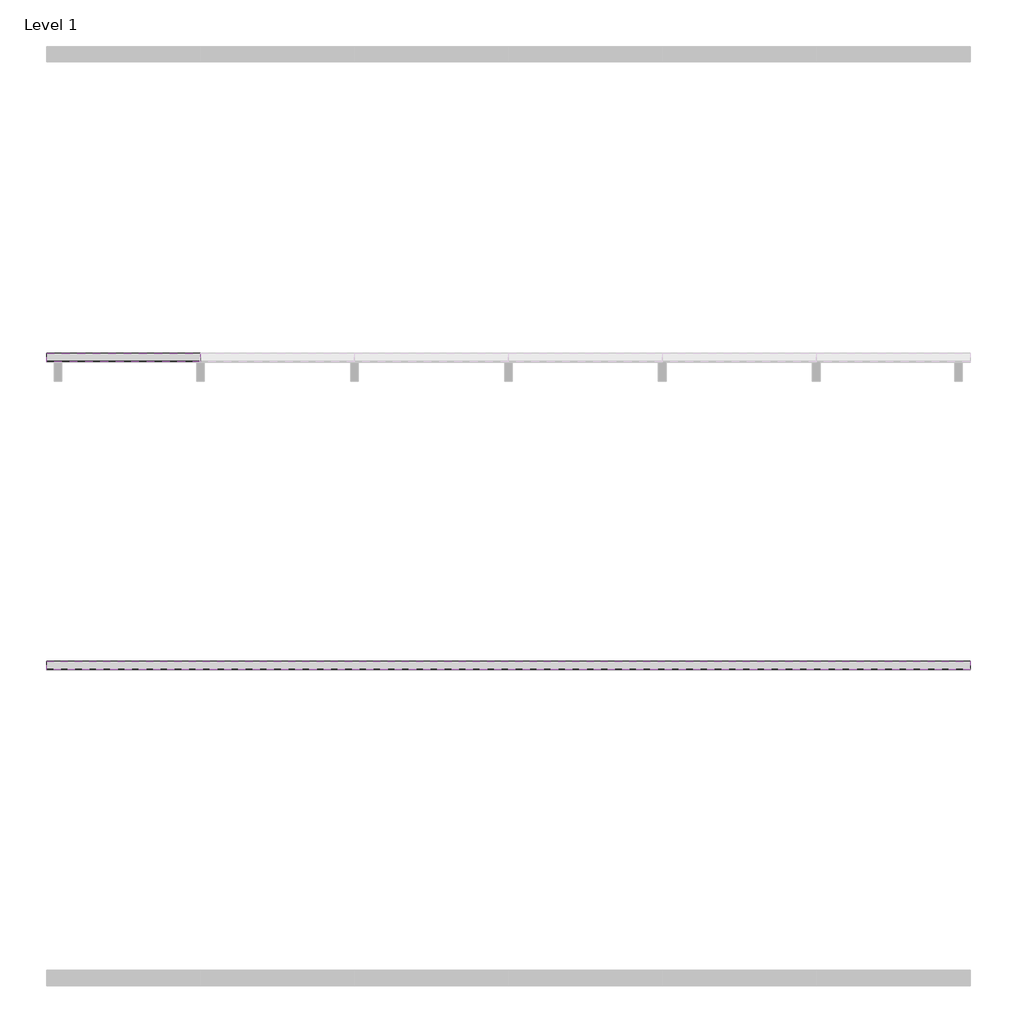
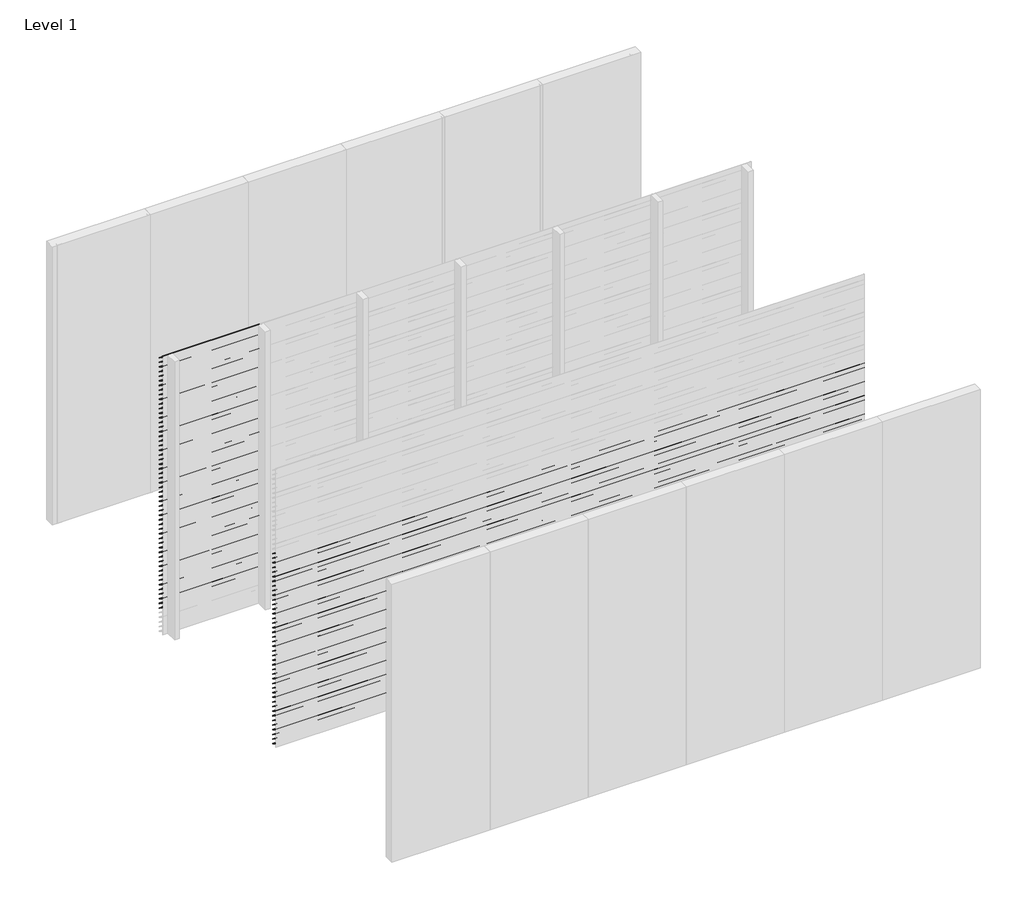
# One storey, part 2 of 18: 97 proxies.
"""IFC4 building model written with IfcOpenShell, lengths in millimetres."""

from ifc_helpers import new_model, si_unit, frame, origin, place, context, project, spatial, polyline, outline, extrude, element, save

model = new_model("IFC4")

# Units and contexts
model_context = context("Model", 3, world=origin())
ifc_project = project(units=[si_unit("LENGTHUNIT", "METRE", prefix="MILLI")], contexts=[model_context])

# Site, building, storey
site = spatial("IfcSite", under=ifc_project)
building = spatial("IfcBuilding", under=site)
storey = spatial("IfcBuildingStorey", under=building, Name="Level 1", Elevation=0.0)

# Proxies
placement = place(None, origin())
element("IfcBuildingElementProxy", 1, Name="Wall Sweeps", at=placement, inside=storey, context=model_context, shape_type="SweptSolid", body=[
    extrude(outline(polyline([(-17995.0, 3000.0), (-17995.0, 2991.0744429), (-17943.0, 2956.0), (-17943.0, 2950.0), (-17997.0, 2986.4234599), (-17997.0, 3000.0), (-17995.0, 3000.0)])), frame((0.0, 0.0, 0.0), z_axis=(1.0, 0.0, 0.0), x_axis=(0.0, 1.0, 0.0)), (0.0, 0.0, 1.0), 1000.0000002),
])
element("IfcBuildingElementProxy", 2, Name="Wall Sweeps", at=placement, inside=storey, context=model_context, shape_type="SweptSolid", body=[
    extrude(outline(polyline([(-17995.0, 2950.0), (-17995.0, 2941.0744429), (-17943.0, 2906.0), (-17943.0, 2900.0), (-17997.0, 2936.4234599), (-17997.0, 2950.0), (-17995.0, 2950.0)])), frame((0.0, 0.0, 0.0), z_axis=(1.0, 0.0, 0.0), x_axis=(0.0, 1.0, 0.0)), (0.0, 0.0, 1.0), 1000.0000002),
])
element("IfcBuildingElementProxy", 3, Name="Wall Sweeps", at=placement, inside=storey, context=model_context, shape_type="SweptSolid", body=[
    extrude(outline(polyline([(-17995.0, 2900.0), (-17995.0, 2891.0744429), (-17943.0, 2856.0), (-17943.0, 2850.0), (-17997.0, 2886.4234599), (-17997.0, 2900.0), (-17995.0, 2900.0)])), frame((0.0, 0.0, 0.0), z_axis=(1.0, 0.0, 0.0), x_axis=(0.0, 1.0, 0.0)), (0.0, 0.0, 1.0), 1000.0000002),
])
element("IfcBuildingElementProxy", 4, Name="Wall Sweeps", at=placement, inside=storey, context=model_context, shape_type="SweptSolid", body=[
    extrude(outline(polyline([(-17995.0, 2850.0), (-17995.0, 2841.0744429), (-17943.0, 2806.0), (-17943.0, 2800.0), (-17997.0, 2836.4234599), (-17997.0, 2850.0), (-17995.0, 2850.0)])), frame((0.0, 0.0, 0.0), z_axis=(1.0, 0.0, 0.0), x_axis=(0.0, 1.0, 0.0)), (0.0, 0.0, 1.0), 1000.0000002),
])
element("IfcBuildingElementProxy", 5, Name="Wall Sweeps", at=placement, inside=storey, context=model_context, shape_type="SweptSolid", body=[
    extrude(outline(polyline([(-17995.0, 2800.0), (-17995.0, 2791.0744429), (-17943.0, 2756.0), (-17943.0, 2750.0), (-17997.0, 2786.4234599), (-17997.0, 2800.0), (-17995.0, 2800.0)])), frame((0.0, 0.0, 0.0), z_axis=(1.0, 0.0, 0.0), x_axis=(0.0, 1.0, 0.0)), (0.0, 0.0, 1.0), 1000.0000002),
])
element("IfcBuildingElementProxy", 6, Name="Wall Sweeps", at=placement, inside=storey, context=model_context, shape_type="SweptSolid", body=[
    extrude(outline(polyline([(-17995.0, 2750.0), (-17995.0, 2741.0744429), (-17943.0, 2706.0), (-17943.0, 2700.0), (-17997.0, 2736.4234599), (-17997.0, 2750.0), (-17995.0, 2750.0)])), frame((0.0, 0.0, 0.0), z_axis=(1.0, 0.0, 0.0), x_axis=(0.0, 1.0, 0.0)), (0.0, 0.0, 1.0), 1000.0000002),
])
element("IfcBuildingElementProxy", 7, Name="Wall Sweeps", at=placement, inside=storey, context=model_context, shape_type="SweptSolid", body=[
    extrude(outline(polyline([(-17995.0, 2700.0), (-17995.0, 2691.0744429), (-17943.0, 2656.0), (-17943.0, 2650.0), (-17997.0, 2686.4234599), (-17997.0, 2700.0), (-17995.0, 2700.0)])), frame((0.0, 0.0, 0.0), z_axis=(1.0, 0.0, 0.0), x_axis=(0.0, 1.0, 0.0)), (0.0, 0.0, 1.0), 1000.0000002),
])
element("IfcBuildingElementProxy", 8, Name="Wall Sweeps", at=placement, inside=storey, context=model_context, shape_type="SweptSolid", body=[
    extrude(outline(polyline([(-17995.0, 2650.0), (-17995.0, 2641.0744429), (-17943.0, 2606.0), (-17943.0, 2600.0), (-17997.0, 2636.4234599), (-17997.0, 2650.0), (-17995.0, 2650.0)])), frame((0.0, 0.0, 0.0), z_axis=(1.0, 0.0, 0.0), x_axis=(0.0, 1.0, 0.0)), (0.0, 0.0, 1.0), 1000.0000002),
])
element("IfcBuildingElementProxy", 9, Name="Wall Sweeps", at=placement, inside=storey, context=model_context, shape_type="SweptSolid", body=[
    extrude(outline(polyline([(-17995.0, 2600.0), (-17995.0, 2591.0744429), (-17943.0, 2556.0), (-17943.0, 2550.0), (-17997.0, 2586.4234599), (-17997.0, 2600.0), (-17995.0, 2600.0)])), frame((0.0, 0.0, 0.0), z_axis=(1.0, 0.0, 0.0), x_axis=(0.0, 1.0, 0.0)), (0.0, 0.0, 1.0), 1000.0000002),
])
element("IfcBuildingElementProxy", 10, Name="Wall Sweeps", at=placement, inside=storey, context=model_context, shape_type="SweptSolid", body=[
    extrude(outline(polyline([(-17995.0, 2550.0), (-17995.0, 2541.0744429), (-17943.0, 2506.0), (-17943.0, 2500.0), (-17997.0, 2536.4234599), (-17997.0, 2550.0), (-17995.0, 2550.0)])), frame((0.0, 0.0, 0.0), z_axis=(1.0, 0.0, 0.0), x_axis=(0.0, 1.0, 0.0)), (0.0, 0.0, 1.0), 1000.0000002),
])
element("IfcBuildingElementProxy", 11, Name="Wall Sweeps", at=placement, inside=storey, context=model_context, shape_type="SweptSolid", body=[
    extrude(outline(polyline([(-17995.0, 2500.0), (-17995.0, 2491.0744429), (-17943.0, 2456.0), (-17943.0, 2450.0), (-17997.0, 2486.4234599), (-17997.0, 2500.0), (-17995.0, 2500.0)])), frame((0.0, 0.0, 0.0), z_axis=(1.0, 0.0, 0.0), x_axis=(0.0, 1.0, 0.0)), (0.0, 0.0, 1.0), 1000.0000002),
])
element("IfcBuildingElementProxy", 12, Name="Wall Sweeps", at=placement, inside=storey, context=model_context, shape_type="SweptSolid", body=[
    extrude(outline(polyline([(-17995.0, 2450.0), (-17995.0, 2441.0744429), (-17943.0, 2406.0), (-17943.0, 2400.0), (-17997.0, 2436.4234599), (-17997.0, 2450.0), (-17995.0, 2450.0)])), frame((0.0, 0.0, 0.0), z_axis=(1.0, 0.0, 0.0), x_axis=(0.0, 1.0, 0.0)), (0.0, 0.0, 1.0), 1000.0000002),
])
element("IfcBuildingElementProxy", 13, Name="Wall Sweeps", at=placement, inside=storey, context=model_context, shape_type="SweptSolid", body=[
    extrude(outline(polyline([(-17995.0, 2400.0), (-17995.0, 2391.0744429), (-17943.0, 2356.0), (-17943.0, 2350.0), (-17997.0, 2386.4234599), (-17997.0, 2400.0), (-17995.0, 2400.0)])), frame((0.0, 0.0, 0.0), z_axis=(1.0, 0.0, 0.0), x_axis=(0.0, 1.0, 0.0)), (0.0, 0.0, 1.0), 1000.0000002),
])
element("IfcBuildingElementProxy", 14, Name="Wall Sweeps", at=placement, inside=storey, context=model_context, shape_type="SweptSolid", body=[
    extrude(outline(polyline([(-17995.0, 2350.0), (-17995.0, 2341.0744429), (-17943.0, 2306.0), (-17943.0, 2300.0), (-17997.0, 2336.4234599), (-17997.0, 2350.0), (-17995.0, 2350.0)])), frame((0.0, 0.0, 0.0), z_axis=(1.0, 0.0, 0.0), x_axis=(0.0, 1.0, 0.0)), (0.0, 0.0, 1.0), 1000.0000002),
])
element("IfcBuildingElementProxy", 15, Name="Wall Sweeps", at=placement, inside=storey, context=model_context, shape_type="SweptSolid", body=[
    extrude(outline(polyline([(-17995.0, 2300.0), (-17995.0, 2291.0744429), (-17943.0, 2256.0), (-17943.0, 2250.0), (-17997.0, 2286.4234599), (-17997.0, 2300.0), (-17995.0, 2300.0)])), frame((0.0, 0.0, 0.0), z_axis=(1.0, 0.0, 0.0), x_axis=(0.0, 1.0, 0.0)), (0.0, 0.0, 1.0), 1000.0000002),
])
element("IfcBuildingElementProxy", 16, Name="Wall Sweeps", at=placement, inside=storey, context=model_context, shape_type="SweptSolid", body=[
    extrude(outline(polyline([(-17995.0, 2250.0), (-17995.0, 2241.0744429), (-17943.0, 2206.0), (-17943.0, 2200.0), (-17997.0, 2236.4234599), (-17997.0, 2250.0), (-17995.0, 2250.0)])), frame((0.0, 0.0, 0.0), z_axis=(1.0, 0.0, 0.0), x_axis=(0.0, 1.0, 0.0)), (0.0, 0.0, 1.0), 1000.0000002),
])
element("IfcBuildingElementProxy", 17, Name="Wall Sweeps", at=placement, inside=storey, context=model_context, shape_type="SweptSolid", body=[
    extrude(outline(polyline([(-17995.0, 2200.0), (-17995.0, 2191.0744429), (-17943.0, 2156.0), (-17943.0, 2150.0), (-17997.0, 2186.4234599), (-17997.0, 2200.0), (-17995.0, 2200.0)])), frame((0.0, 0.0, 0.0), z_axis=(1.0, 0.0, 0.0), x_axis=(0.0, 1.0, 0.0)), (0.0, 0.0, 1.0), 1000.0000002),
])
element("IfcBuildingElementProxy", 18, Name="Wall Sweeps", at=placement, inside=storey, context=model_context, shape_type="SweptSolid", body=[
    extrude(outline(polyline([(-17995.0, 2150.0), (-17995.0, 2141.0744429), (-17943.0, 2106.0), (-17943.0, 2100.0), (-17997.0, 2136.4234599), (-17997.0, 2150.0), (-17995.0, 2150.0)])), frame((0.0, 0.0, 0.0), z_axis=(1.0, 0.0, 0.0), x_axis=(0.0, 1.0, 0.0)), (0.0, 0.0, 1.0), 1000.0000002),
])
element("IfcBuildingElementProxy", 19, Name="Wall Sweeps", at=placement, inside=storey, context=model_context, shape_type="SweptSolid", body=[
    extrude(outline(polyline([(-17995.0, 2100.0), (-17995.0, 2091.0744429), (-17943.0, 2056.0), (-17943.0, 2050.0), (-17997.0, 2086.4234599), (-17997.0, 2100.0), (-17995.0, 2100.0)])), frame((0.0, 0.0, 0.0), z_axis=(1.0, 0.0, 0.0), x_axis=(0.0, 1.0, 0.0)), (0.0, 0.0, 1.0), 1000.0000002),
])
element("IfcBuildingElementProxy", 20, Name="Wall Sweeps", at=placement, inside=storey, context=model_context, shape_type="SweptSolid", body=[
    extrude(outline(polyline([(-17995.0, 2050.0), (-17995.0, 2041.0744429), (-17943.0, 2006.0), (-17943.0, 2000.0), (-17997.0, 2036.4234599), (-17997.0, 2050.0), (-17995.0, 2050.0)])), frame((0.0, 0.0, 0.0), z_axis=(1.0, 0.0, 0.0), x_axis=(0.0, 1.0, 0.0)), (0.0, 0.0, 1.0), 1000.0000002),
])
element("IfcBuildingElementProxy", 21, Name="Wall Sweeps", at=placement, inside=storey, context=model_context, shape_type="SweptSolid", body=[
    extrude(outline(polyline([(-17995.0, 2000.0), (-17995.0, 1991.0744429), (-17943.0, 1956.0), (-17943.0, 1950.0), (-17997.0, 1986.4234599), (-17997.0, 2000.0), (-17995.0, 2000.0)])), frame((0.0, 0.0, 0.0), z_axis=(1.0, 0.0, 0.0), x_axis=(0.0, 1.0, 0.0)), (0.0, 0.0, 1.0), 1000.0000002),
])
element("IfcBuildingElementProxy", 22, Name="Wall Sweeps", at=placement, inside=storey, context=model_context, shape_type="SweptSolid", body=[
    extrude(outline(polyline([(-17995.0, 1950.0), (-17995.0, 1941.0744429), (-17943.0, 1906.0), (-17943.0, 1900.0), (-17997.0, 1936.4234599), (-17997.0, 1950.0), (-17995.0, 1950.0)])), frame((0.0, 0.0, 0.0), z_axis=(1.0, 0.0, 0.0), x_axis=(0.0, 1.0, 0.0)), (0.0, 0.0, 1.0), 1000.0000002),
])
element("IfcBuildingElementProxy", 23, Name="Wall Sweeps", at=placement, inside=storey, context=model_context, shape_type="SweptSolid", body=[
    extrude(outline(polyline([(-17995.0, 1900.0), (-17995.0, 1891.0744429), (-17943.0, 1856.0), (-17943.0, 1850.0), (-17997.0, 1886.4234599), (-17997.0, 1900.0), (-17995.0, 1900.0)])), frame((0.0, 0.0, 0.0), z_axis=(1.0, 0.0, 0.0), x_axis=(0.0, 1.0, 0.0)), (0.0, 0.0, 1.0), 1000.0000002),
])
element("IfcBuildingElementProxy", 24, Name="Wall Sweeps", at=placement, inside=storey, context=model_context, shape_type="SweptSolid", body=[
    extrude(outline(polyline([(-17995.0, 1850.0), (-17995.0, 1841.0744429), (-17943.0, 1806.0), (-17943.0, 1800.0), (-17997.0, 1836.4234599), (-17997.0, 1850.0), (-17995.0, 1850.0)])), frame((0.0, 0.0, 0.0), z_axis=(1.0, 0.0, 0.0), x_axis=(0.0, 1.0, 0.0)), (0.0, 0.0, 1.0), 1000.0000002),
])
element("IfcBuildingElementProxy", 25, Name="Wall Sweeps", at=placement, inside=storey, context=model_context, shape_type="SweptSolid", body=[
    extrude(outline(polyline([(-17995.0, 1800.0), (-17995.0, 1791.0744429), (-17943.0, 1756.0), (-17943.0, 1750.0), (-17997.0, 1786.4234599), (-17997.0, 1800.0), (-17995.0, 1800.0)])), frame((0.0, 0.0, 0.0), z_axis=(1.0, 0.0, 0.0), x_axis=(0.0, 1.0, 0.0)), (0.0, 0.0, 1.0), 1000.0000002),
])
element("IfcBuildingElementProxy", 26, Name="Wall Sweeps", at=placement, inside=storey, context=model_context, shape_type="SweptSolid", body=[
    extrude(outline(polyline([(-17995.0, 1750.0), (-17995.0, 1741.0744429), (-17943.0, 1706.0), (-17943.0, 1700.0), (-17997.0, 1736.4234599), (-17997.0, 1750.0), (-17995.0, 1750.0)])), frame((0.0, 0.0, 0.0), z_axis=(1.0, 0.0, 0.0), x_axis=(0.0, 1.0, 0.0)), (0.0, 0.0, 1.0), 1000.0000002),
])
element("IfcBuildingElementProxy", 27, Name="Wall Sweeps", at=placement, inside=storey, context=model_context, shape_type="SweptSolid", body=[
    extrude(outline(polyline([(-17995.0, 1700.0), (-17995.0, 1691.0744429), (-17943.0, 1656.0), (-17943.0, 1650.0), (-17997.0, 1686.4234599), (-17997.0, 1700.0), (-17995.0, 1700.0)])), frame((0.0, 0.0, 0.0), z_axis=(1.0, 0.0, 0.0), x_axis=(0.0, 1.0, 0.0)), (0.0, 0.0, 1.0), 1000.0000002),
])
element("IfcBuildingElementProxy", 28, Name="Wall Sweeps", at=placement, inside=storey, context=model_context, shape_type="SweptSolid", body=[
    extrude(outline(polyline([(-17995.0, 1650.0), (-17995.0, 1641.0744429), (-17943.0, 1606.0), (-17943.0, 1600.0), (-17997.0, 1636.4234599), (-17997.0, 1650.0), (-17995.0, 1650.0)])), frame((0.0, 0.0, 0.0), z_axis=(1.0, 0.0, 0.0), x_axis=(0.0, 1.0, 0.0)), (0.0, 0.0, 1.0), 1000.0000002),
])
element("IfcBuildingElementProxy", 29, Name="Wall Sweeps", at=placement, inside=storey, context=model_context, shape_type="SweptSolid", body=[
    extrude(outline(polyline([(-17995.0, 1600.0), (-17995.0, 1591.0744429), (-17943.0, 1556.0), (-17943.0, 1550.0), (-17997.0, 1586.4234599), (-17997.0, 1600.0), (-17995.0, 1600.0)])), frame((0.0, 0.0, 0.0), z_axis=(1.0, 0.0, 0.0), x_axis=(0.0, 1.0, 0.0)), (0.0, 0.0, 1.0), 1000.0000002),
])
element("IfcBuildingElementProxy", 30, Name="Wall Sweeps", at=placement, inside=storey, context=model_context, shape_type="SweptSolid", body=[
    extrude(outline(polyline([(-17995.0, 1550.0), (-17995.0, 1541.0744429), (-17943.0, 1506.0), (-17943.0, 1500.0), (-17997.0, 1536.4234599), (-17997.0, 1550.0), (-17995.0, 1550.0)])), frame((0.0, 0.0, 0.0), z_axis=(1.0, 0.0, 0.0), x_axis=(0.0, 1.0, 0.0)), (0.0, 0.0, 1.0), 1000.0000002),
])
element("IfcBuildingElementProxy", 31, Name="Wall Sweeps", at=placement, inside=storey, context=model_context, shape_type="SweptSolid", body=[
    extrude(outline(polyline([(-17995.0, 1500.0), (-17995.0, 1491.0744429), (-17943.0, 1456.0), (-17943.0, 1450.0), (-17997.0, 1486.4234599), (-17997.0, 1500.0), (-17995.0, 1500.0)])), frame((0.0, 0.0, 0.0), z_axis=(1.0, 0.0, 0.0), x_axis=(0.0, 1.0, 0.0)), (0.0, 0.0, 1.0), 1000.0000002),
])
element("IfcBuildingElementProxy", 32, Name="Wall Sweeps", at=placement, inside=storey, context=model_context, shape_type="SweptSolid", body=[
    extrude(outline(polyline([(-17995.0, 1450.0), (-17995.0, 1441.0744429), (-17943.0, 1406.0), (-17943.0, 1400.0), (-17997.0, 1436.4234599), (-17997.0, 1450.0), (-17995.0, 1450.0)])), frame((0.0, 0.0, 0.0), z_axis=(1.0, 0.0, 0.0), x_axis=(0.0, 1.0, 0.0)), (0.0, 0.0, 1.0), 1000.0000002),
])
element("IfcBuildingElementProxy", 33, Name="Wall Sweeps", at=placement, inside=storey, context=model_context, shape_type="SweptSolid", body=[
    extrude(outline(polyline([(-17995.0, 1400.0), (-17995.0, 1391.0744429), (-17943.0, 1356.0), (-17943.0, 1350.0), (-17997.0, 1386.4234599), (-17997.0, 1400.0), (-17995.0, 1400.0)])), frame((0.0, 0.0, 0.0), z_axis=(1.0, 0.0, 0.0), x_axis=(0.0, 1.0, 0.0)), (0.0, 0.0, 1.0), 1000.0000002),
])
element("IfcBuildingElementProxy", 34, Name="Wall Sweeps", at=placement, inside=storey, context=model_context, shape_type="SweptSolid", body=[
    extrude(outline(polyline([(-17995.0, 1350.0), (-17995.0, 1341.0744429), (-17943.0, 1306.0), (-17943.0, 1300.0), (-17997.0, 1336.4234599), (-17997.0, 1350.0), (-17995.0, 1350.0)])), frame((0.0, 0.0, 0.0), z_axis=(1.0, 0.0, 0.0), x_axis=(0.0, 1.0, 0.0)), (0.0, 0.0, 1.0), 1000.0000002),
])
element("IfcBuildingElementProxy", 35, Name="Wall Sweeps", at=placement, inside=storey, context=model_context, shape_type="SweptSolid", body=[
    extrude(outline(polyline([(-17995.0, 1300.0), (-17995.0, 1291.0744429), (-17943.0, 1256.0), (-17943.0, 1250.0), (-17997.0, 1286.4234599), (-17997.0, 1300.0), (-17995.0, 1300.0)])), frame((0.0, 0.0, 0.0), z_axis=(1.0, 0.0, 0.0), x_axis=(0.0, 1.0, 0.0)), (0.0, 0.0, 1.0), 1000.0000002),
])
element("IfcBuildingElementProxy", 36, Name="Wall Sweeps", at=placement, inside=storey, context=model_context, shape_type="SweptSolid", body=[
    extrude(outline(polyline([(-17995.0, 1250.0), (-17995.0, 1241.0744429), (-17943.0, 1206.0), (-17943.0, 1200.0), (-17997.0, 1236.4234599), (-17997.0, 1250.0), (-17995.0, 1250.0)])), frame((0.0, 0.0, 0.0), z_axis=(1.0, 0.0, 0.0), x_axis=(0.0, 1.0, 0.0)), (0.0, 0.0, 1.0), 1000.0000002),
])
element("IfcBuildingElementProxy", 37, Name="Wall Sweeps", at=placement, inside=storey, context=model_context, shape_type="SweptSolid", body=[
    extrude(outline(polyline([(-17995.0, 1200.0), (-17995.0, 1191.0744429), (-17943.0, 1156.0), (-17943.0, 1150.0), (-17997.0, 1186.4234599), (-17997.0, 1200.0), (-17995.0, 1200.0)])), frame((0.0, 0.0, 0.0), z_axis=(1.0, 0.0, 0.0), x_axis=(0.0, 1.0, 0.0)), (0.0, 0.0, 1.0), 1000.0000002),
])
element("IfcBuildingElementProxy", 38, Name="Wall Sweeps", at=placement, inside=storey, context=model_context, shape_type="SweptSolid", body=[
    extrude(outline(polyline([(-17995.0, 1150.0), (-17995.0, 1141.0744429), (-17943.0, 1106.0), (-17943.0, 1100.0), (-17997.0, 1136.4234599), (-17997.0, 1150.0), (-17995.0, 1150.0)])), frame((0.0, 0.0, 0.0), z_axis=(1.0, 0.0, 0.0), x_axis=(0.0, 1.0, 0.0)), (0.0, 0.0, 1.0), 1000.0000002),
])
element("IfcBuildingElementProxy", 39, Name="Wall Sweeps", at=placement, inside=storey, context=model_context, shape_type="SweptSolid", body=[
    extrude(outline(polyline([(-17995.0, 1100.0), (-17995.0, 1091.0744429), (-17943.0, 1056.0), (-17943.0, 1050.0), (-17997.0, 1086.4234599), (-17997.0, 1100.0), (-17995.0, 1100.0)])), frame((0.0, 0.0, 0.0), z_axis=(1.0, 0.0, 0.0), x_axis=(0.0, 1.0, 0.0)), (0.0, 0.0, 1.0), 1000.0000002),
])
element("IfcBuildingElementProxy", 40, Name="Wall Sweeps", at=placement, inside=storey, context=model_context, shape_type="SweptSolid", body=[
    extrude(outline(polyline([(-17995.0, 1050.0), (-17995.0, 1041.0744429), (-17943.0, 1006.0), (-17943.0, 1000.0), (-17997.0, 1036.4234599), (-17997.0, 1050.0), (-17995.0, 1050.0)])), frame((0.0, 0.0, 0.0), z_axis=(1.0, 0.0, 0.0), x_axis=(0.0, 1.0, 0.0)), (0.0, 0.0, 1.0), 1000.0000002),
])
element("IfcBuildingElementProxy", 41, Name="Wall Sweeps", at=placement, inside=storey, context=model_context, shape_type="SweptSolid", body=[
    extrude(outline(polyline([(-17995.0, 1000.0), (-17995.0, 991.0744429), (-17943.0, 956.0), (-17943.0, 950.0), (-17997.0, 986.4234599), (-17997.0, 1000.0), (-17995.0, 1000.0)])), frame((0.0, 0.0, 0.0), z_axis=(1.0, 0.0, 0.0), x_axis=(0.0, 1.0, 0.0)), (0.0, 0.0, 1.0), 1000.0000002),
])
element("IfcBuildingElementProxy", 42, Name="Wall Sweeps", at=placement, inside=storey, context=model_context, shape_type="SweptSolid", body=[
    extrude(outline(polyline([(-17995.0, 950.0), (-17995.0, 941.0744429), (-17943.0, 906.0), (-17943.0, 900.0), (-17997.0, 936.4234599), (-17997.0, 950.0), (-17995.0, 950.0)])), frame((0.0, 0.0, 0.0), z_axis=(1.0, 0.0, 0.0), x_axis=(0.0, 1.0, 0.0)), (0.0, 0.0, 1.0), 1000.0000002),
])
element("IfcBuildingElementProxy", 43, Name="Wall Sweeps", at=placement, inside=storey, context=model_context, shape_type="SweptSolid", body=[
    extrude(outline(polyline([(-17995.0, 900.0), (-17995.0, 891.0744429), (-17943.0, 856.0), (-17943.0, 850.0), (-17997.0, 886.4234599), (-17997.0, 900.0), (-17995.0, 900.0)])), frame((0.0, 0.0, 0.0), z_axis=(1.0, 0.0, 0.0), x_axis=(0.0, 1.0, 0.0)), (0.0, 0.0, 1.0), 1000.0000002),
])
element("IfcBuildingElementProxy", 44, Name="Wall Sweeps", at=placement, inside=storey, context=model_context, shape_type="SweptSolid", body=[
    extrude(outline(polyline([(-17995.0, 850.0), (-17995.0, 841.0744429), (-17943.0, 806.0), (-17943.0, 800.0), (-17997.0, 836.4234599), (-17997.0, 850.0), (-17995.0, 850.0)])), frame((0.0, 0.0, 0.0), z_axis=(1.0, 0.0, 0.0), x_axis=(0.0, 1.0, 0.0)), (0.0, 0.0, 1.0), 1000.0000002),
])
element("IfcBuildingElementProxy", 45, Name="Wall Sweeps", at=placement, inside=storey, context=model_context, shape_type="SweptSolid", body=[
    extrude(outline(polyline([(-17995.0, 800.0), (-17995.0, 791.0744429), (-17943.0, 756.0), (-17943.0, 750.0), (-17997.0, 786.4234599), (-17997.0, 800.0), (-17995.0, 800.0)])), frame((0.0, 0.0, 0.0), z_axis=(1.0, 0.0, 0.0), x_axis=(0.0, 1.0, 0.0)), (0.0, 0.0, 1.0), 1000.0000002),
])
element("IfcBuildingElementProxy", 46, Name="Wall Sweeps", at=placement, inside=storey, context=model_context, shape_type="SweptSolid", body=[
    extrude(outline(polyline([(-17995.0, 750.0), (-17995.0, 741.0744429), (-17943.0, 706.0), (-17943.0, 700.0), (-17997.0, 736.4234599), (-17997.0, 750.0), (-17995.0, 750.0)])), frame((0.0, 0.0, 0.0), z_axis=(1.0, 0.0, 0.0), x_axis=(0.0, 1.0, 0.0)), (0.0, 0.0, 1.0), 1000.0000002),
])
element("IfcBuildingElementProxy", 47, Name="Wall Sweeps", at=placement, inside=storey, context=model_context, shape_type="SweptSolid", body=[
    extrude(outline(polyline([(-17995.0, 700.0), (-17995.0, 691.0744429), (-17943.0, 656.0), (-17943.0, 650.0), (-17997.0, 686.4234599), (-17997.0, 700.0), (-17995.0, 700.0)])), frame((0.0, 0.0, 0.0), z_axis=(1.0, 0.0, 0.0), x_axis=(0.0, 1.0, 0.0)), (0.0, 0.0, 1.0), 1000.0000002),
])
element("IfcBuildingElementProxy", 48, Name="Wall Sweeps", at=placement, inside=storey, context=model_context, shape_type="SweptSolid", body=[
    extrude(outline(polyline([(-17995.0, 650.0), (-17995.0, 641.0744429), (-17943.0, 606.0), (-17943.0, 600.0), (-17997.0, 636.4234599), (-17997.0, 650.0), (-17995.0, 650.0)])), frame((0.0, 0.0, 0.0), z_axis=(1.0, 0.0, 0.0), x_axis=(0.0, 1.0, 0.0)), (0.0, 0.0, 1.0), 1000.0000002),
])
element("IfcBuildingElementProxy", 49, Name="Wall Sweeps", at=placement, inside=storey, context=model_context, shape_type="SweptSolid", body=[
    extrude(outline(polyline([(-17995.0, 600.0), (-17995.0, 591.0744429), (-17943.0, 556.0), (-17943.0, 550.0), (-17997.0, 586.4234599), (-17997.0, 600.0), (-17995.0, 600.0)])), frame((0.0, 0.0, 0.0), z_axis=(1.0, 0.0, 0.0), x_axis=(0.0, 1.0, 0.0)), (0.0, 0.0, 1.0), 1000.0000002),
])
element("IfcBuildingElementProxy", 50, Name="Wall Sweeps", at=placement, inside=storey, context=model_context, shape_type="SweptSolid", body=[
    extrude(outline(polyline([(-17995.0, 550.0), (-17995.0, 541.0744429), (-17943.0, 506.0), (-17943.0, 500.0), (-17997.0, 536.4234599), (-17997.0, 550.0), (-17995.0, 550.0)])), frame((0.0, 0.0, 0.0), z_axis=(1.0, 0.0, 0.0), x_axis=(0.0, 1.0, 0.0)), (0.0, 0.0, 1.0), 1000.0000002),
])
element("IfcBuildingElementProxy", 51, Name="Wall Sweeps", at=placement, inside=storey, context=model_context, shape_type="SweptSolid", body=[
    extrude(outline(polyline([(-17995.0, 500.0), (-17995.0, 491.0744429), (-17943.0, 456.0), (-17943.0, 450.0), (-17997.0, 486.4234599), (-17997.0, 500.0), (-17995.0, 500.0)])), frame((0.0, 0.0, 0.0), z_axis=(1.0, 0.0, 0.0), x_axis=(0.0, 1.0, 0.0)), (0.0, 0.0, 1.0), 1000.0000002),
])
element("IfcBuildingElementProxy", 52, Name="Wall Sweeps", at=placement, inside=storey, context=model_context, shape_type="SweptSolid", body=[
    extrude(outline(polyline([(-17995.0, 450.0), (-17995.0, 441.0744429), (-17943.0, 406.0), (-17943.0, 400.0), (-17997.0, 436.4234599), (-17997.0, 450.0), (-17995.0, 450.0)])), frame((0.0, 0.0, 0.0), z_axis=(1.0, 0.0, 0.0), x_axis=(0.0, 1.0, 0.0)), (0.0, 0.0, 1.0), 1000.0000002),
])
element("IfcBuildingElementProxy", 53, Name="Wall Sweeps", at=placement, inside=storey, context=model_context, shape_type="SweptSolid", body=[
    extrude(outline(polyline([(-17995.0, 400.0), (-17995.0, 391.0744429), (-17943.0, 356.0), (-17943.0, 350.0), (-17997.0, 386.4234599), (-17997.0, 400.0), (-17995.0, 400.0)])), frame((0.0, 0.0, 0.0), z_axis=(1.0, 0.0, 0.0), x_axis=(0.0, 1.0, 0.0)), (0.0, 0.0, 1.0), 1000.0000002),
])
element("IfcBuildingElementProxy", 54, Name="Wall Sweeps", at=placement, inside=storey, context=model_context, shape_type="SweptSolid", body=[
    extrude(outline(polyline([(-17995.0, 350.0), (-17995.0, 341.0744429), (-17943.0, 306.0), (-17943.0, 300.0), (-17997.0, 336.4234599), (-17997.0, 350.0), (-17995.0, 350.0)])), frame((0.0, 0.0, 0.0), z_axis=(1.0, 0.0, 0.0), x_axis=(0.0, 1.0, 0.0)), (0.0, 0.0, 1.0), 1000.0000002),
])
element("IfcBuildingElementProxy", 55, Name="Wall Sweeps", at=placement, inside=storey, context=model_context, shape_type="SweptSolid", body=[
    extrude(outline(polyline([(-17995.0, 300.0), (-17995.0, 291.0744429), (-17943.0, 256.0), (-17943.0, 250.0), (-17997.0, 286.4234599), (-17997.0, 300.0), (-17995.0, 300.0)])), frame((0.0, 0.0, 0.0), z_axis=(1.0, 0.0, 0.0), x_axis=(0.0, 1.0, 0.0)), (0.0, 0.0, 1.0), 1000.0000002),
])
element("IfcBuildingElementProxy", 56, Name="Wall Sweeps", at=placement, inside=storey, context=model_context, shape_type="SweptSolid", body=[
    extrude(outline(polyline([(-19995.0, 2100.0), (-19995.0, 2091.0744429), (-19943.0, 2056.0), (-19943.0, 2050.0), (-19997.0, 2086.4234599), (-19997.0, 2100.0), (-19995.0, 2100.0)])), frame((0.0, 0.0, 0.0), z_axis=(1.0, 0.0, 0.0), x_axis=(0.0, 1.0, 0.0)), (0.0, 0.0, 1.0), 6000.0),
])
element("IfcBuildingElementProxy", 57, Name="Wall Sweeps", at=placement, inside=storey, context=model_context, shape_type="SweptSolid", body=[
    extrude(outline(polyline([(-19995.0, 2050.0), (-19995.0, 2041.0744429), (-19943.0, 2006.0), (-19943.0, 2000.0), (-19997.0, 2036.4234599), (-19997.0, 2050.0), (-19995.0, 2050.0)])), frame((0.0, 0.0, 0.0), z_axis=(1.0, 0.0, 0.0), x_axis=(0.0, 1.0, 0.0)), (0.0, 0.0, 1.0), 6000.0),
])
element("IfcBuildingElementProxy", 58, Name="Wall Sweeps", at=placement, inside=storey, context=model_context, shape_type="SweptSolid", body=[
    extrude(outline(polyline([(-19995.0, 2000.0), (-19995.0, 1991.0744429), (-19943.0, 1956.0), (-19943.0, 1950.0), (-19997.0, 1986.4234599), (-19997.0, 2000.0), (-19995.0, 2000.0)])), frame((0.0, 0.0, 0.0), z_axis=(1.0, 0.0, 0.0), x_axis=(0.0, 1.0, 0.0)), (0.0, 0.0, 1.0), 6000.0),
])
element("IfcBuildingElementProxy", 59, Name="Wall Sweeps", at=placement, inside=storey, context=model_context, shape_type="SweptSolid", body=[
    extrude(outline(polyline([(-19995.0, 1950.0), (-19995.0, 1941.0744429), (-19943.0, 1906.0), (-19943.0, 1900.0), (-19997.0, 1936.4234599), (-19997.0, 1950.0), (-19995.0, 1950.0)])), frame((0.0, 0.0, 0.0), z_axis=(1.0, 0.0, 0.0), x_axis=(0.0, 1.0, 0.0)), (0.0, 0.0, 1.0), 6000.0),
])
element("IfcBuildingElementProxy", 60, Name="Wall Sweeps", at=placement, inside=storey, context=model_context, shape_type="SweptSolid", body=[
    extrude(outline(polyline([(-19995.0, 1900.0), (-19995.0, 1891.0744429), (-19943.0, 1856.0), (-19943.0, 1850.0), (-19997.0, 1886.4234599), (-19997.0, 1900.0), (-19995.0, 1900.0)])), frame((0.0, 0.0, 0.0), z_axis=(1.0, 0.0, 0.0), x_axis=(0.0, 1.0, 0.0)), (0.0, 0.0, 1.0), 6000.0),
])
element("IfcBuildingElementProxy", 61, Name="Wall Sweeps", at=placement, inside=storey, context=model_context, shape_type="SweptSolid", body=[
    extrude(outline(polyline([(-19995.0, 1850.0), (-19995.0, 1841.0744429), (-19943.0, 1806.0), (-19943.0, 1800.0), (-19997.0, 1836.4234599), (-19997.0, 1850.0), (-19995.0, 1850.0)])), frame((0.0, 0.0, 0.0), z_axis=(1.0, 0.0, 0.0), x_axis=(0.0, 1.0, 0.0)), (0.0, 0.0, 1.0), 6000.0),
])
element("IfcBuildingElementProxy", 62, Name="Wall Sweeps", at=placement, inside=storey, context=model_context, shape_type="SweptSolid", body=[
    extrude(outline(polyline([(-19995.0, 1800.0), (-19995.0, 1791.0744429), (-19943.0, 1756.0), (-19943.0, 1750.0), (-19997.0, 1786.4234599), (-19997.0, 1800.0), (-19995.0, 1800.0)])), frame((0.0, 0.0, 0.0), z_axis=(1.0, 0.0, 0.0), x_axis=(0.0, 1.0, 0.0)), (0.0, 0.0, 1.0), 6000.0),
])
element("IfcBuildingElementProxy", 63, Name="Wall Sweeps", at=placement, inside=storey, context=model_context, shape_type="SweptSolid", body=[
    extrude(outline(polyline([(-19995.0, 1750.0), (-19995.0, 1741.0744429), (-19943.0, 1706.0), (-19943.0, 1700.0), (-19997.0, 1736.4234599), (-19997.0, 1750.0), (-19995.0, 1750.0)])), frame((0.0, 0.0, 0.0), z_axis=(1.0, 0.0, 0.0), x_axis=(0.0, 1.0, 0.0)), (0.0, 0.0, 1.0), 6000.0),
])
element("IfcBuildingElementProxy", 64, Name="Wall Sweeps", at=placement, inside=storey, context=model_context, shape_type="SweptSolid", body=[
    extrude(outline(polyline([(-19995.0, 1700.0), (-19995.0, 1691.0744429), (-19943.0, 1656.0), (-19943.0, 1650.0), (-19997.0, 1686.4234599), (-19997.0, 1700.0), (-19995.0, 1700.0)])), frame((0.0, 0.0, 0.0), z_axis=(1.0, 0.0, 0.0), x_axis=(0.0, 1.0, 0.0)), (0.0, 0.0, 1.0), 6000.0),
])
element("IfcBuildingElementProxy", 65, Name="Wall Sweeps", at=placement, inside=storey, context=model_context, shape_type="SweptSolid", body=[
    extrude(outline(polyline([(-19995.0, 1650.0), (-19995.0, 1641.0744429), (-19943.0, 1606.0), (-19943.0, 1600.0), (-19997.0, 1636.4234599), (-19997.0, 1650.0), (-19995.0, 1650.0)])), frame((0.0, 0.0, 0.0), z_axis=(1.0, 0.0, 0.0), x_axis=(0.0, 1.0, 0.0)), (0.0, 0.0, 1.0), 6000.0),
])
element("IfcBuildingElementProxy", 66, Name="Wall Sweeps", at=placement, inside=storey, context=model_context, shape_type="SweptSolid", body=[
    extrude(outline(polyline([(-19995.0, 1600.0), (-19995.0, 1591.0744429), (-19943.0, 1556.0), (-19943.0, 1550.0), (-19997.0, 1586.4234599), (-19997.0, 1600.0), (-19995.0, 1600.0)])), frame((0.0, 0.0, 0.0), z_axis=(1.0, 0.0, 0.0), x_axis=(0.0, 1.0, 0.0)), (0.0, 0.0, 1.0), 6000.0),
])
element("IfcBuildingElementProxy", 67, Name="Wall Sweeps", at=placement, inside=storey, context=model_context, shape_type="SweptSolid", body=[
    extrude(outline(polyline([(-19995.0, 1550.0), (-19995.0, 1541.0744429), (-19943.0, 1506.0), (-19943.0, 1500.0), (-19997.0, 1536.4234599), (-19997.0, 1550.0), (-19995.0, 1550.0)])), frame((0.0, 0.0, 0.0), z_axis=(1.0, 0.0, 0.0), x_axis=(0.0, 1.0, 0.0)), (0.0, 0.0, 1.0), 6000.0),
])
element("IfcBuildingElementProxy", 68, Name="Wall Sweeps", at=placement, inside=storey, context=model_context, shape_type="SweptSolid", body=[
    extrude(outline(polyline([(-19995.0, 1500.0), (-19995.0, 1491.0744429), (-19943.0, 1456.0), (-19943.0, 1450.0), (-19997.0, 1486.4234599), (-19997.0, 1500.0), (-19995.0, 1500.0)])), frame((0.0, 0.0, 0.0), z_axis=(1.0, 0.0, 0.0), x_axis=(0.0, 1.0, 0.0)), (0.0, 0.0, 1.0), 6000.0),
])
element("IfcBuildingElementProxy", 69, Name="Wall Sweeps", at=placement, inside=storey, context=model_context, shape_type="SweptSolid", body=[
    extrude(outline(polyline([(-19995.0, 1450.0), (-19995.0, 1441.0744429), (-19943.0, 1406.0), (-19943.0, 1400.0), (-19997.0, 1436.4234599), (-19997.0, 1450.0), (-19995.0, 1450.0)])), frame((0.0, 0.0, 0.0), z_axis=(1.0, 0.0, 0.0), x_axis=(0.0, 1.0, 0.0)), (0.0, 0.0, 1.0), 6000.0),
])
element("IfcBuildingElementProxy", 70, Name="Wall Sweeps", at=placement, inside=storey, context=model_context, shape_type="SweptSolid", body=[
    extrude(outline(polyline([(-19995.0, 1400.0), (-19995.0, 1391.0744429), (-19943.0, 1356.0), (-19943.0, 1350.0), (-19997.0, 1386.4234599), (-19997.0, 1400.0), (-19995.0, 1400.0)])), frame((0.0, 0.0, 0.0), z_axis=(1.0, 0.0, 0.0), x_axis=(0.0, 1.0, 0.0)), (0.0, 0.0, 1.0), 6000.0),
])
element("IfcBuildingElementProxy", 71, Name="Wall Sweeps", at=placement, inside=storey, context=model_context, shape_type="SweptSolid", body=[
    extrude(outline(polyline([(-19995.0, 1350.0), (-19995.0, 1341.0744429), (-19943.0, 1306.0), (-19943.0, 1300.0), (-19997.0, 1336.4234599), (-19997.0, 1350.0), (-19995.0, 1350.0)])), frame((0.0, 0.0, 0.0), z_axis=(1.0, 0.0, 0.0), x_axis=(0.0, 1.0, 0.0)), (0.0, 0.0, 1.0), 6000.0),
])
element("IfcBuildingElementProxy", 72, Name="Wall Sweeps", at=placement, inside=storey, context=model_context, shape_type="SweptSolid", body=[
    extrude(outline(polyline([(-19995.0, 1300.0), (-19995.0, 1291.0744429), (-19943.0, 1256.0), (-19943.0, 1250.0), (-19997.0, 1286.4234599), (-19997.0, 1300.0), (-19995.0, 1300.0)])), frame((0.0, 0.0, 0.0), z_axis=(1.0, 0.0, 0.0), x_axis=(0.0, 1.0, 0.0)), (0.0, 0.0, 1.0), 6000.0),
])
element("IfcBuildingElementProxy", 73, Name="Wall Sweeps", at=placement, inside=storey, context=model_context, shape_type="SweptSolid", body=[
    extrude(outline(polyline([(-19995.0, 1250.0), (-19995.0, 1241.0744429), (-19943.0, 1206.0), (-19943.0, 1200.0), (-19997.0, 1236.4234599), (-19997.0, 1250.0), (-19995.0, 1250.0)])), frame((0.0, 0.0, 0.0), z_axis=(1.0, 0.0, 0.0), x_axis=(0.0, 1.0, 0.0)), (0.0, 0.0, 1.0), 6000.0),
])
element("IfcBuildingElementProxy", 74, Name="Wall Sweeps", at=placement, inside=storey, context=model_context, shape_type="SweptSolid", body=[
    extrude(outline(polyline([(-19995.0, 1200.0), (-19995.0, 1191.0744429), (-19943.0, 1156.0), (-19943.0, 1150.0), (-19997.0, 1186.4234599), (-19997.0, 1200.0), (-19995.0, 1200.0)])), frame((0.0, 0.0, 0.0), z_axis=(1.0, 0.0, 0.0), x_axis=(0.0, 1.0, 0.0)), (0.0, 0.0, 1.0), 6000.0),
])
element("IfcBuildingElementProxy", 75, Name="Wall Sweeps", at=placement, inside=storey, context=model_context, shape_type="SweptSolid", body=[
    extrude(outline(polyline([(-19995.0, 1150.0), (-19995.0, 1141.0744429), (-19943.0, 1106.0), (-19943.0, 1100.0), (-19997.0, 1136.4234599), (-19997.0, 1150.0), (-19995.0, 1150.0)])), frame((0.0, 0.0, 0.0), z_axis=(1.0, 0.0, 0.0), x_axis=(0.0, 1.0, 0.0)), (0.0, 0.0, 1.0), 6000.0),
])
element("IfcBuildingElementProxy", 76, Name="Wall Sweeps", at=placement, inside=storey, context=model_context, shape_type="SweptSolid", body=[
    extrude(outline(polyline([(-19995.0, 1100.0), (-19995.0, 1091.0744429), (-19943.0, 1056.0), (-19943.0, 1050.0), (-19997.0, 1086.4234599), (-19997.0, 1100.0), (-19995.0, 1100.0)])), frame((0.0, 0.0, 0.0), z_axis=(1.0, 0.0, 0.0), x_axis=(0.0, 1.0, 0.0)), (0.0, 0.0, 1.0), 6000.0),
])
element("IfcBuildingElementProxy", 77, Name="Wall Sweeps", at=placement, inside=storey, context=model_context, shape_type="SweptSolid", body=[
    extrude(outline(polyline([(-19995.0, 1050.0), (-19995.0, 1041.0744429), (-19943.0, 1006.0), (-19943.0, 1000.0), (-19997.0, 1036.4234599), (-19997.0, 1050.0), (-19995.0, 1050.0)])), frame((0.0, 0.0, 0.0), z_axis=(1.0, 0.0, 0.0), x_axis=(0.0, 1.0, 0.0)), (0.0, 0.0, 1.0), 6000.0),
])
element("IfcBuildingElementProxy", 78, Name="Wall Sweeps", at=placement, inside=storey, context=model_context, shape_type="SweptSolid", body=[
    extrude(outline(polyline([(-19995.0, 1000.0), (-19995.0, 991.0744429), (-19943.0, 956.0), (-19943.0, 950.0), (-19997.0, 986.4234599), (-19997.0, 1000.0), (-19995.0, 1000.0)])), frame((0.0, 0.0, 0.0), z_axis=(1.0, 0.0, 0.0), x_axis=(0.0, 1.0, 0.0)), (0.0, 0.0, 1.0), 6000.0),
])
element("IfcBuildingElementProxy", 79, Name="Wall Sweeps", at=placement, inside=storey, context=model_context, shape_type="SweptSolid", body=[
    extrude(outline(polyline([(-19995.0, 950.0), (-19995.0, 941.0744429), (-19943.0, 906.0), (-19943.0, 900.0), (-19997.0, 936.4234599), (-19997.0, 950.0), (-19995.0, 950.0)])), frame((0.0, 0.0, 0.0), z_axis=(1.0, 0.0, 0.0), x_axis=(0.0, 1.0, 0.0)), (0.0, 0.0, 1.0), 6000.0),
])
element("IfcBuildingElementProxy", 80, Name="Wall Sweeps", at=placement, inside=storey, context=model_context, shape_type="SweptSolid", body=[
    extrude(outline(polyline([(-19995.0, 900.0), (-19995.0, 891.0744429), (-19943.0, 856.0), (-19943.0, 850.0), (-19997.0, 886.4234599), (-19997.0, 900.0), (-19995.0, 900.0)])), frame((0.0, 0.0, 0.0), z_axis=(1.0, 0.0, 0.0), x_axis=(0.0, 1.0, 0.0)), (0.0, 0.0, 1.0), 6000.0),
])
element("IfcBuildingElementProxy", 81, Name="Wall Sweeps", at=placement, inside=storey, context=model_context, shape_type="SweptSolid", body=[
    extrude(outline(polyline([(-19995.0, 850.0), (-19995.0, 841.0744429), (-19943.0, 806.0), (-19943.0, 800.0), (-19997.0, 836.4234599), (-19997.0, 850.0), (-19995.0, 850.0)])), frame((0.0, 0.0, 0.0), z_axis=(1.0, 0.0, 0.0), x_axis=(0.0, 1.0, 0.0)), (0.0, 0.0, 1.0), 6000.0),
])
element("IfcBuildingElementProxy", 82, Name="Wall Sweeps", at=placement, inside=storey, context=model_context, shape_type="SweptSolid", body=[
    extrude(outline(polyline([(-19995.0, 800.0), (-19995.0, 791.0744429), (-19943.0, 756.0), (-19943.0, 750.0), (-19997.0, 786.4234599), (-19997.0, 800.0), (-19995.0, 800.0)])), frame((0.0, 0.0, 0.0), z_axis=(1.0, 0.0, 0.0), x_axis=(0.0, 1.0, 0.0)), (0.0, 0.0, 1.0), 6000.0),
])
element("IfcBuildingElementProxy", 83, Name="Wall Sweeps", at=placement, inside=storey, context=model_context, shape_type="SweptSolid", body=[
    extrude(outline(polyline([(-19995.0, 750.0), (-19995.0, 741.0744429), (-19943.0, 706.0), (-19943.0, 700.0), (-19997.0, 736.4234599), (-19997.0, 750.0), (-19995.0, 750.0)])), frame((0.0, 0.0, 0.0), z_axis=(1.0, 0.0, 0.0), x_axis=(0.0, 1.0, 0.0)), (0.0, 0.0, 1.0), 6000.0),
])
element("IfcBuildingElementProxy", 84, Name="Wall Sweeps", at=placement, inside=storey, context=model_context, shape_type="SweptSolid", body=[
    extrude(outline(polyline([(-19995.0, 700.0), (-19995.0, 691.0744429), (-19943.0, 656.0), (-19943.0, 650.0), (-19997.0, 686.4234599), (-19997.0, 700.0), (-19995.0, 700.0)])), frame((0.0, 0.0, 0.0), z_axis=(1.0, 0.0, 0.0), x_axis=(0.0, 1.0, 0.0)), (0.0, 0.0, 1.0), 6000.0),
])
element("IfcBuildingElementProxy", 85, Name="Wall Sweeps", at=placement, inside=storey, context=model_context, shape_type="SweptSolid", body=[
    extrude(outline(polyline([(-19995.0, 650.0), (-19995.0, 641.0744429), (-19943.0, 606.0), (-19943.0, 600.0), (-19997.0, 636.4234599), (-19997.0, 650.0), (-19995.0, 650.0)])), frame((0.0, 0.0, 0.0), z_axis=(1.0, 0.0, 0.0), x_axis=(0.0, 1.0, 0.0)), (0.0, 0.0, 1.0), 6000.0),
])
element("IfcBuildingElementProxy", 86, Name="Wall Sweeps", at=placement, inside=storey, context=model_context, shape_type="SweptSolid", body=[
    extrude(outline(polyline([(-19995.0, 600.0), (-19995.0, 591.0744429), (-19943.0, 556.0), (-19943.0, 550.0), (-19997.0, 586.4234599), (-19997.0, 600.0), (-19995.0, 600.0)])), frame((0.0, 0.0, 0.0), z_axis=(1.0, 0.0, 0.0), x_axis=(0.0, 1.0, 0.0)), (0.0, 0.0, 1.0), 6000.0),
])
element("IfcBuildingElementProxy", 87, Name="Wall Sweeps", at=placement, inside=storey, context=model_context, shape_type="SweptSolid", body=[
    extrude(outline(polyline([(-19995.0, 550.0), (-19995.0, 541.0744429), (-19943.0, 506.0), (-19943.0, 500.0), (-19997.0, 536.4234599), (-19997.0, 550.0), (-19995.0, 550.0)])), frame((0.0, 0.0, 0.0), z_axis=(1.0, 0.0, 0.0), x_axis=(0.0, 1.0, 0.0)), (0.0, 0.0, 1.0), 6000.0),
])
element("IfcBuildingElementProxy", 88, Name="Wall Sweeps", at=placement, inside=storey, context=model_context, shape_type="SweptSolid", body=[
    extrude(outline(polyline([(-19995.0, 500.0), (-19995.0, 491.0744429), (-19943.0, 456.0), (-19943.0, 450.0), (-19997.0, 486.4234599), (-19997.0, 500.0), (-19995.0, 500.0)])), frame((0.0, 0.0, 0.0), z_axis=(1.0, 0.0, 0.0), x_axis=(0.0, 1.0, 0.0)), (0.0, 0.0, 1.0), 6000.0),
])
element("IfcBuildingElementProxy", 89, Name="Wall Sweeps", at=placement, inside=storey, context=model_context, shape_type="SweptSolid", body=[
    extrude(outline(polyline([(-19995.0, 450.0), (-19995.0, 441.0744429), (-19943.0, 406.0), (-19943.0, 400.0), (-19997.0, 436.4234599), (-19997.0, 450.0), (-19995.0, 450.0)])), frame((0.0, 0.0, 0.0), z_axis=(1.0, 0.0, 0.0), x_axis=(0.0, 1.0, 0.0)), (0.0, 0.0, 1.0), 6000.0),
])
element("IfcBuildingElementProxy", 90, Name="Wall Sweeps", at=placement, inside=storey, context=model_context, shape_type="SweptSolid", body=[
    extrude(outline(polyline([(-19995.0, 400.0), (-19995.0, 391.0744429), (-19943.0, 356.0), (-19943.0, 350.0), (-19997.0, 386.4234599), (-19997.0, 400.0), (-19995.0, 400.0)])), frame((0.0, 0.0, 0.0), z_axis=(1.0, 0.0, 0.0), x_axis=(0.0, 1.0, 0.0)), (0.0, 0.0, 1.0), 6000.0),
])
element("IfcBuildingElementProxy", 91, Name="Wall Sweeps", at=placement, inside=storey, context=model_context, shape_type="SweptSolid", body=[
    extrude(outline(polyline([(-19995.0, 350.0), (-19995.0, 341.0744429), (-19943.0, 306.0), (-19943.0, 300.0), (-19997.0, 336.4234599), (-19997.0, 350.0), (-19995.0, 350.0)])), frame((0.0, 0.0, 0.0), z_axis=(1.0, 0.0, 0.0), x_axis=(0.0, 1.0, 0.0)), (0.0, 0.0, 1.0), 6000.0),
])
element("IfcBuildingElementProxy", 92, Name="Wall Sweeps", at=placement, inside=storey, context=model_context, shape_type="SweptSolid", body=[
    extrude(outline(polyline([(-19995.0, 300.0), (-19995.0, 291.0744429), (-19943.0, 256.0), (-19943.0, 250.0), (-19997.0, 286.4234599), (-19997.0, 300.0), (-19995.0, 300.0)])), frame((0.0, 0.0, 0.0), z_axis=(1.0, 0.0, 0.0), x_axis=(0.0, 1.0, 0.0)), (0.0, 0.0, 1.0), 6000.0),
])
element("IfcBuildingElementProxy", 93, Name="Wall Sweeps", at=placement, inside=storey, context=model_context, shape_type="SweptSolid", body=[
    extrude(outline(polyline([(-19995.0, 250.0), (-19995.0, 241.0744429), (-19943.0, 206.0), (-19943.0, 200.0), (-19997.0, 236.4234599), (-19997.0, 250.0), (-19995.0, 250.0)])), frame((0.0, 0.0, 0.0), z_axis=(1.0, 0.0, 0.0), x_axis=(0.0, 1.0, 0.0)), (0.0, 0.0, 1.0), 6000.0),
])
element("IfcBuildingElementProxy", 94, Name="Wall Sweeps", at=placement, inside=storey, context=model_context, shape_type="SweptSolid", body=[
    extrude(outline(polyline([(-19995.0, 200.0), (-19995.0, 191.0744429), (-19943.0, 156.0), (-19943.0, 150.0), (-19997.0, 186.4234599), (-19997.0, 200.0), (-19995.0, 200.0)])), frame((0.0, 0.0, 0.0), z_axis=(1.0, 0.0, 0.0), x_axis=(0.0, 1.0, 0.0)), (0.0, 0.0, 1.0), 6000.0),
])
element("IfcBuildingElementProxy", 95, Name="Wall Sweeps", at=placement, inside=storey, context=model_context, shape_type="SweptSolid", body=[
    extrude(outline(polyline([(-19995.0, 150.0), (-19995.0, 141.0744429), (-19943.0, 106.0), (-19943.0, 100.0), (-19997.0, 136.4234599), (-19997.0, 150.0), (-19995.0, 150.0)])), frame((0.0, 0.0, 0.0), z_axis=(1.0, 0.0, 0.0), x_axis=(0.0, 1.0, 0.0)), (0.0, 0.0, 1.0), 6000.0),
])
element("IfcBuildingElementProxy", 96, Name="Wall Sweeps", at=placement, inside=storey, context=model_context, shape_type="SweptSolid", body=[
    extrude(outline(polyline([(-19995.0, 100.0), (-19995.0, 91.0744429), (-19943.0, 56.0), (-19943.0, 50.0), (-19997.0, 86.4234599), (-19997.0, 100.0), (-19995.0, 100.0)])), frame((0.0, 0.0, 0.0), z_axis=(1.0, 0.0, 0.0), x_axis=(0.0, 1.0, 0.0)), (0.0, 0.0, 1.0), 6000.0),
])
element("IfcBuildingElementProxy", 97, Name="Wall Sweeps", at=placement, inside=storey, context=model_context, shape_type="SweptSolid", body=[
    extrude(outline(polyline([(-19995.0, 50.0), (-19995.0, 41.0744429), (-19943.0, 6.0), (-19943.0, 0.0), (-19997.0, 36.4234599), (-19997.0, 50.0), (-19995.0, 50.0)])), frame((0.0, 0.0, 0.0), z_axis=(1.0, 0.0, 0.0), x_axis=(0.0, 1.0, 0.0)), (0.0, 0.0, 1.0), 6000.0),
])

save(model, "model.ifc")
